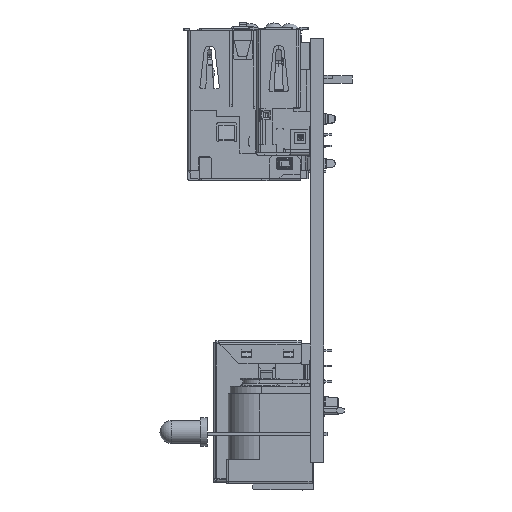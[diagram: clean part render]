
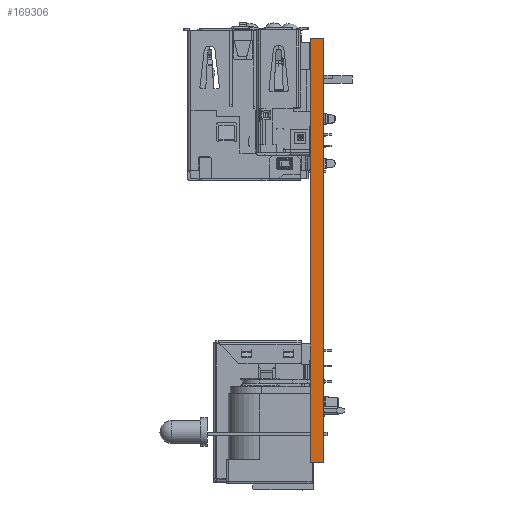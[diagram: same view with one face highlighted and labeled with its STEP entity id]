
A CAD part, left-side view. The second image highlights one B-rep face of the part: STEP entity #169306.
In plain terms, the highlighted planar face has unit normal (-1, 0, 0).
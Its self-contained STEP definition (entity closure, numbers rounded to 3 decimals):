
#9724=FACE_OUTER_BOUND('',#18823,.T.);
#18823=EDGE_LOOP('',(#123730,#123731,#123732,#123733));
#28828=LINE('',#244083,#49785);
#32993=LINE('',#254933,#53950);
#32994=LINE('',#254934,#53951);
#32995=LINE('',#254935,#53952);
#49785=VECTOR('',#195279,10.);
#53950=VECTOR('',#203966,10.);
#53951=VECTOR('',#203967,10.);
#53952=VECTOR('',#203968,10.);
#70326=VERTEX_POINT('',#244080);
#70327=VERTEX_POINT('',#244082);
#73926=VERTEX_POINT('',#254931);
#73927=VERTEX_POINT('',#254932);
#87738=EDGE_CURVE('',#70326,#70327,#28828,.T.);
#92799=EDGE_CURVE('',#73926,#73927,#32993,.T.);
#92800=EDGE_CURVE('',#73927,#70327,#32994,.T.);
#92801=EDGE_CURVE('',#73926,#70326,#32995,.T.);
#123730=ORIENTED_EDGE('',*,*,#92799,.T.);
#123731=ORIENTED_EDGE('',*,*,#92800,.T.);
#123732=ORIENTED_EDGE('',*,*,#87738,.F.);
#123733=ORIENTED_EDGE('',*,*,#92801,.F.);
#161875=PLANE('',#179794);
#169306=ADVANCED_FACE('',(#9724),#161875,.T.);
#179794=AXIS2_PLACEMENT_3D('',#254930,#203964,#203965);
#195279=DIRECTION('',(0.,0.,1.));
#203964=DIRECTION('center_axis',(-1.,0.,0.));
#203965=DIRECTION('ref_axis',(0.,0.,1.));
#203966=DIRECTION('',(0.,0.,1.));
#203967=DIRECTION('',(0.,1.,0.));
#203968=DIRECTION('',(0.,1.,0.));
#244080=CARTESIAN_POINT('',(0.,1.7,-54.66));
#244082=CARTESIAN_POINT('',(0.,1.7,0.));
#244083=CARTESIAN_POINT('',(0.,1.7,-54.66));
#254930=CARTESIAN_POINT('Origin',(0.,0.,-54.66));
#254931=CARTESIAN_POINT('',(0.,0.,-54.66));
#254932=CARTESIAN_POINT('',(0.,0.,0.));
#254933=CARTESIAN_POINT('',(0.,0.,-54.66));
#254934=CARTESIAN_POINT('',(0.,0.,0.));
#254935=CARTESIAN_POINT('',(0.,0.,-54.66));
